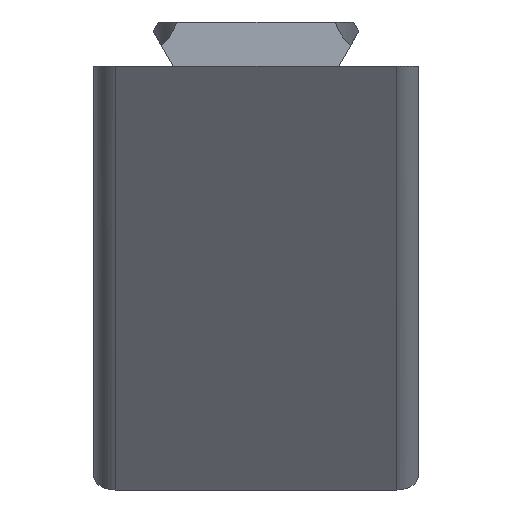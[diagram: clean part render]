
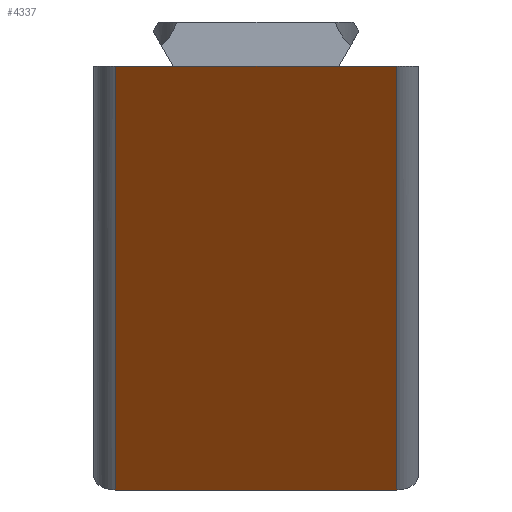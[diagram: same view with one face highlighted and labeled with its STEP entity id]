
A CAD part, left-side view. The second image highlights one B-rep face of the part: STEP entity #4337.
In plain terms, the highlighted planar face has unit normal (-0.766, 0, -0.643).
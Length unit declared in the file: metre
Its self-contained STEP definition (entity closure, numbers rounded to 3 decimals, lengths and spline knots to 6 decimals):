
#586=ORIENTED_EDGE('',*,*,#1692,.T.);
#587=ORIENTED_EDGE('',*,*,#1861,.T.);
#588=ORIENTED_EDGE('',*,*,#1646,.F.);
#589=ORIENTED_EDGE('',*,*,#1862,.T.);
#590=ORIENTED_EDGE('',*,*,#1708,.T.);
#591=ORIENTED_EDGE('',*,*,#1856,.T.);
#1646=EDGE_CURVE('',#2299,#2300,#2734,.T.);
#1692=EDGE_CURVE('',#2346,#2345,#2757,.T.);
#1708=EDGE_CURVE('',#2362,#2361,#2767,.T.);
#1856=EDGE_CURVE('',#2361,#2346,#2857,.T.);
#1861=EDGE_CURVE('',#2345,#2300,#2858,.T.);
#1862=EDGE_CURVE('',#2299,#2362,#2859,.F.);
#2299=VERTEX_POINT('',#5878);
#2300=VERTEX_POINT('',#5880);
#2345=VERTEX_POINT('',#5974);
#2346=VERTEX_POINT('',#5976);
#2361=VERTEX_POINT('',#6006);
#2362=VERTEX_POINT('',#6008);
#2734=LINE('',#5879,#3171);
#2757=LINE('',#5975,#3194);
#2767=LINE('',#6007,#3204);
#2857=LINE('',#6379,#3294);
#2858=LINE('',#6390,#3295);
#2859=LINE('',#6391,#3296);
#3171=VECTOR('',#4874,1.);
#3194=VECTOR('',#4951,1.);
#3204=VECTOR('',#4973,1.);
#3294=VECTOR('',#5125,1.);
#3295=VECTOR('',#5142,1.);
#3296=VECTOR('',#5143,1.);
#3647=EDGE_LOOP('',(#586,#587,#588,#589,#590,#591));
#3932=FACE_BOUND('',#3647,.T.);
#4190=PLANE('',#4651);
#4337=ADVANCED_FACE('',(#3932),#4190,.F.);
#4651=AXIS2_PLACEMENT_3D('',#6389,#5140,#5141);
#4874=DIRECTION('',(0.,1.,0.));
#4951=DIRECTION('',(0.,1.,0.));
#4973=DIRECTION('',(0.,1.,0.));
#5125=DIRECTION('',(0.,1.,0.));
#5140=DIRECTION('',(0.766,0.,0.643));
#5141=DIRECTION('',(0.643,0.,-0.766));
#5142=DIRECTION('',(0.643,0.,-0.766));
#5143=DIRECTION('',(0.643,0.,-0.766));
#5878=CARTESIAN_POINT('',(0.032879,-0.013,-0.039184));
#5879=CARTESIAN_POINT('',(0.032879,-0.015,-0.039184));
#5880=CARTESIAN_POINT('',(0.032879,0.013,-0.039184));
#5974=CARTESIAN_POINT('',(0.,0.013,0.));
#5975=CARTESIAN_POINT('',(0.,-0.015,0.));
#5976=CARTESIAN_POINT('',(0.,0.007695,0.));
#6006=CARTESIAN_POINT('',(0.,-0.007695,0.));
#6007=CARTESIAN_POINT('',(0.,-0.015,0.));
#6008=CARTESIAN_POINT('',(0.,-0.013,0.));
#6379=CARTESIAN_POINT('',(0.,0.,0.));
#6389=CARTESIAN_POINT('',(0.016439,-0.015,-0.019592));
#6390=CARTESIAN_POINT('',(0.016439,0.013,-0.019592));
#6391=CARTESIAN_POINT('',(0.,-0.013,0.));
